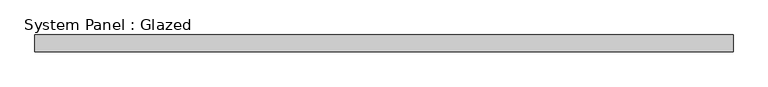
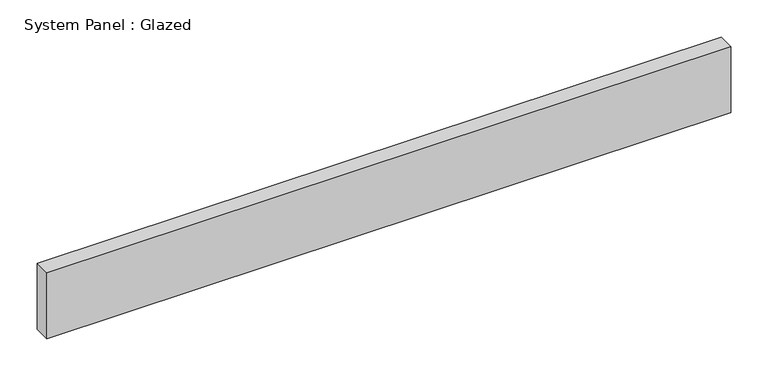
"""IFC4 building model written with IfcOpenShell, lengths in millimetres: plate geometry, System Panel : Glazed."""

from ifc_helpers import new_model, si_unit, origin, origin_with_axes, place, context, project, spatial, polyline, outline, extrude, source, transform, mapped, element, save


def system_panel_glazed_c7baee26(model_context):
    return source(origin(), model_context, "Body", "SweptSolid", [
        extrude(outline(polyline([(529.5446429, 19.05), (-529.5446429, 19.05), (-529.5446429, 44.45), (529.5446429, 44.45), (529.5446429, 19.05)])), origin_with_axes(), (0.0, 0.0, 1.0), 107.8104781),
    ])


if __name__ == "__main__":
    model = new_model("IFC4")
    model_context = context("Model", 3, world=origin())
    ifc_project = project(units=[si_unit("LENGTHUNIT", "METRE", prefix="MILLI")], contexts=[model_context])
    site = spatial("IfcSite", under=ifc_project)
    building = spatial("IfcBuilding", under=site)
    placement = place(None, origin())
    system_panel_glazed_shape = system_panel_glazed_c7baee26(model_context)
    element("IfcPlate", 1, ObjectType="System Panel : Glazed", at=placement, inside=building, context=model_context, shape_type="MappedRepresentation", body=[
        mapped(system_panel_glazed_shape, transform((0.0, 0.0, 0.0), x_axis=(1.0, 0.0, 0.0), y_axis=(0.0, 1.0, 0.0), z_axis=(0.0, 0.0, 1.0))),
    ])
    save(model, "model.ifc")
